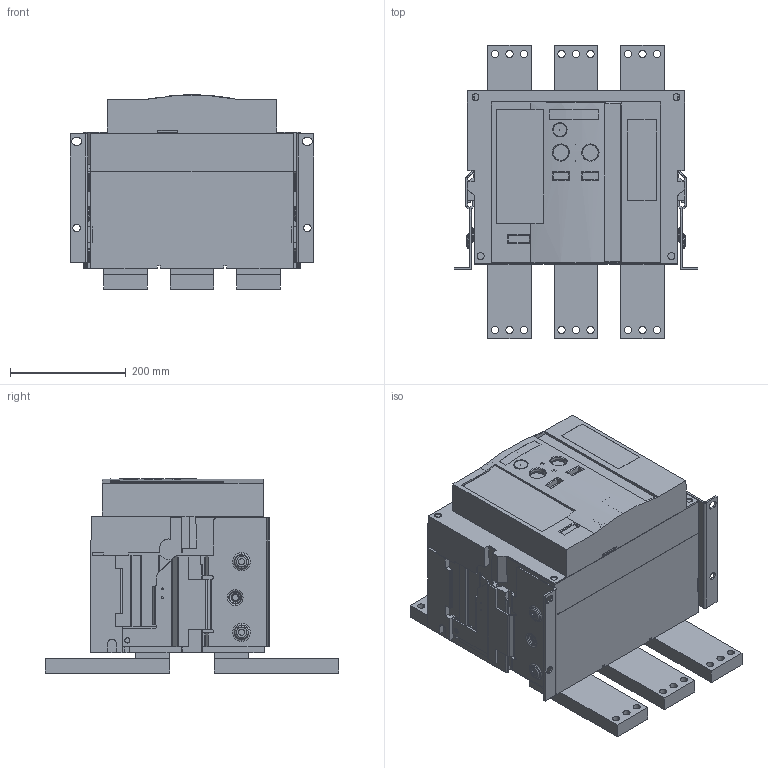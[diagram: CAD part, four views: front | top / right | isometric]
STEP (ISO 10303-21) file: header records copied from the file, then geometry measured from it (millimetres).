
FILE_DESCRIPTION (( 'STEP AP214' ), '1' );
FILE_NAME ('OptiMat A-S4-BH-2500-3P-F-X.STEP', '2023-10-02T08:42:57', ( '' ), ( '' ), 'SwSTEP 2.0', 'SolidWorks 2018', '' );
FILE_SCHEMA (( 'AUTOMOTIVE_DESIGN' ));
Length unit declared in the file: millimetre
Products named in the file (1): OptiMat A-S4-BH-2500-3P-F-X
Bounding box: 421 x 507 x 335.81 mm (x, y, z)
Volume: 31984356.9 mm3; surface area: 1311040.6 mm2
Topology: 1 solids, 59 shells, 2315 faces, 5860 edges, 3804 vertices
Faces by surface type: plane 1477, cylinder 616, cone 111, torus 76, bspline 35
Entity records: 98820 total; most frequent: CARTESIAN_POINT 18971, ORIENTED_EDGE 11700, DIRECTION 11644, EDGE_CURVE 5850, LINE 4012, VECTOR 4012, AXIS2_PLACEMENT_3D 3816, VERTEX_POINT 3804
